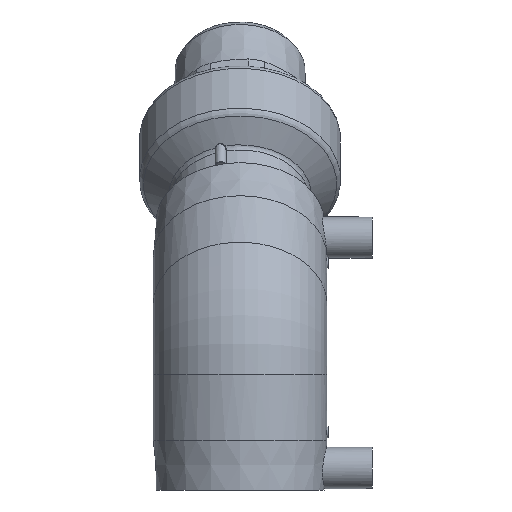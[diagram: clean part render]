
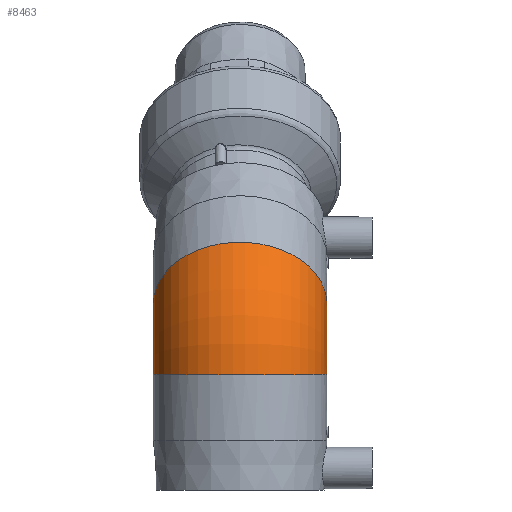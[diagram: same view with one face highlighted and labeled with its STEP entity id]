
A CAD part, left-side view. The second image highlights one B-rep face of the part: STEP entity #8463.
In plain terms, the highlighted toroidal (fillet/blend) face has major radius 35.5 mm and minor radius 31.5 mm.
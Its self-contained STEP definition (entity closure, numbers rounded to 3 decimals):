
#561=TOROIDAL_SURFACE('',#10811,35.5,31.5);
#895=B_SPLINE_CURVE_WITH_KNOTS('',3,(#14080,#14081,#14082,#14083,#14084,
#14085,#14086,#14087,#14088,#14089,#14090,#14091,#14092,#14093,#14094,#14095,
#14096,#14097,#14098,#14099,#14100,#14101,#14102,#14103,#14104,#14105,#14106),
 .UNSPECIFIED.,.F.,.F.,(4,1,1,1,1,1,1,1,1,1,1,1,1,1,1,1,1,1,1,1,1,1,1,1,
4),(0.,0.003,0.006,0.012,
0.018,0.021,0.024,0.027,
0.03,0.034,0.037,0.04,
0.043,0.049,0.055,0.061,
0.064,0.068,0.074,0.08,
0.086,0.089,0.092,0.095,
0.098),.UNSPECIFIED.);
#897=B_SPLINE_CURVE_WITH_KNOTS('',3,(#14129,#14130,#14131,#14132,#14133,
#14134,#14135,#14136,#14137,#14138,#14139,#14140,#14141,#14142,#14143,#14144,
#14145,#14146,#14147,#14148,#14149,#14150,#14151,#14152,#14153,#14154),
 .UNSPECIFIED.,.F.,.F.,(4,1,1,1,1,1,1,1,1,1,1,1,1,1,1,1,1,1,1,1,1,1,1,4),
(0.,0.003,0.006,0.012,
0.018,0.021,0.024,0.027,
0.03,0.034,0.037,0.04,
0.043,0.049,0.055,0.061,
0.064,0.068,0.071,0.074,
0.08,0.086,0.092,0.098),
 .UNSPECIFIED.);
#1766=ORIENTED_EDGE('',*,*,#4470,.F.);
#1767=ORIENTED_EDGE('',*,*,#4481,.F.);
#1768=ORIENTED_EDGE('',*,*,#4480,.F.);
#1769=ORIENTED_EDGE('',*,*,#4475,.T.);
#1770=ORIENTED_EDGE('',*,*,#4483,.T.);
#1771=ORIENTED_EDGE('',*,*,#4482,.T.);
#4470=EDGE_CURVE('',#5841,#5840,#895,.T.);
#4475=EDGE_CURVE('',#5846,#5845,#897,.T.);
#4480=EDGE_CURVE('',#5846,#5851,#6756,.T.);
#4481=EDGE_CURVE('',#5851,#5841,#6757,.T.);
#4482=EDGE_CURVE('',#5852,#5840,#6758,.T.);
#4483=EDGE_CURVE('',#5845,#5852,#6759,.T.);
#5840=VERTEX_POINT('',#14078);
#5841=VERTEX_POINT('',#14079);
#5845=VERTEX_POINT('',#14127);
#5846=VERTEX_POINT('',#14128);
#5851=VERTEX_POINT('',#14395);
#5852=VERTEX_POINT('',#14398);
#6756=CIRCLE('',#10804,35.5);
#6757=CIRCLE('',#10805,35.5);
#6758=CIRCLE('',#10806,35.5);
#6759=CIRCLE('',#10807,35.5);
#7111=EDGE_LOOP('',(#1766,#1767,#1768,#1769,#1770,#1771));
#7728=FACE_BOUND('',#7111,.T.);
#8463=ADVANCED_FACE('',(#7728),#561,.T.);
#10804=AXIS2_PLACEMENT_3D('',#14394,#11831,#11832);
#10805=AXIS2_PLACEMENT_3D('',#14396,#11833,#11834);
#10806=AXIS2_PLACEMENT_3D('',#14397,#11835,#11836);
#10807=AXIS2_PLACEMENT_3D('',#14399,#11837,#11838);
#10811=AXIS2_PLACEMENT_3D('',#14456,#11845,#11846);
#11831=DIRECTION('',(0.,1.,0.));
#11832=DIRECTION('',(-1.,0.,-0.008));
#11833=DIRECTION('',(0.,1.,0.));
#11834=DIRECTION('',(-1.,0.,-0.008));
#11835=DIRECTION('',(0.,1.,0.));
#11836=DIRECTION('',(-1.,0.,-0.008));
#11837=DIRECTION('',(0.,1.,0.));
#11838=DIRECTION('',(-1.,0.,-0.008));
#11845=DIRECTION('',(0.,1.,0.));
#11846=DIRECTION('',(0.,0.,1.));
#14078=CARTESIAN_POINT('',(10.607,-31.5,10.607));
#14079=CARTESIAN_POINT('',(10.607,31.5,10.607));
#14080=CARTESIAN_POINT('',(10.607,31.5,10.607));
#14081=CARTESIAN_POINT('',(9.882,31.5,11.337));
#14082=CARTESIAN_POINT('',(8.417,31.397,12.815));
#14083=CARTESIAN_POINT('',(5.555,30.794,15.699));
#14084=CARTESIAN_POINT('',(2.031,29.271,19.249));
#14085=CARTESIAN_POINT('',(-1.149,26.857,22.451));
#14086=CARTESIAN_POINT('',(-3.509,24.373,24.827));
#14087=CARTESIAN_POINT('',(-5.117,22.3,26.446));
#14088=CARTESIAN_POINT('',(-6.572,20.022,27.911));
#14089=CARTESIAN_POINT('',(-7.88,17.522,29.227));
#14090=CARTESIAN_POINT('',(-9.004,14.858,30.358));
#14091=CARTESIAN_POINT('',(-9.93,12.079,31.289));
#14092=CARTESIAN_POINT('',(-10.665,9.173,32.029));
#14093=CARTESIAN_POINT('',(-11.377,5.13,32.746));
#14094=CARTESIAN_POINT('',(-11.732,0.041,33.102));
#14095=CARTESIAN_POINT('',(-11.301,-6.219,32.669));
#14096=CARTESIAN_POINT('',(-10.235,-11.165,31.596));
#14097=CARTESIAN_POINT('',(-8.999,-14.874,30.352));
#14098=CARTESIAN_POINT('',(-7.485,-18.45,28.829));
#14099=CARTESIAN_POINT('',(-5.195,-22.406,26.524));
#14100=CARTESIAN_POINT('',(-1.778,-26.382,23.084));
#14101=CARTESIAN_POINT('',(1.404,-28.794,19.88));
#14102=CARTESIAN_POINT('',(4.17,-30.199,17.094));
#14103=CARTESIAN_POINT('',(6.277,-30.945,14.971));
#14104=CARTESIAN_POINT('',(8.418,-31.397,12.813));
#14105=CARTESIAN_POINT('',(9.882,-31.5,11.337));
#14106=CARTESIAN_POINT('',(10.607,-31.5,10.607));
#14127=CARTESIAN_POINT('',(0.,-31.5,-15.));
#14128=CARTESIAN_POINT('',(0.,31.5,-15.));
#14129=CARTESIAN_POINT('',(0.,31.5,-15.));
#14130=CARTESIAN_POINT('',(-1.029,31.5,-15.004));
#14131=CARTESIAN_POINT('',(-3.11,31.397,-15.013));
#14132=CARTESIAN_POINT('',(-7.173,30.794,-15.029));
#14133=CARTESIAN_POINT('',(-12.176,29.271,-15.047));
#14134=CARTESIAN_POINT('',(-16.688,26.856,-15.063));
#14135=CARTESIAN_POINT('',(-20.037,24.372,-15.074));
#14136=CARTESIAN_POINT('',(-22.319,22.299,-15.082));
#14137=CARTESIAN_POINT('',(-24.384,20.022,-15.088));
#14138=CARTESIAN_POINT('',(-26.239,17.522,-15.094));
#14139=CARTESIAN_POINT('',(-27.833,14.858,-15.099));
#14140=CARTESIAN_POINT('',(-29.146,12.078,-15.103));
#14141=CARTESIAN_POINT('',(-30.189,9.172,-15.107));
#14142=CARTESIAN_POINT('',(-31.2,5.129,-15.11));
#14143=CARTESIAN_POINT('',(-31.703,0.035,-15.111));
#14144=CARTESIAN_POINT('',(-31.09,-6.202,-15.109));
#14145=CARTESIAN_POINT('',(-29.603,-11.109,-15.105));
#14146=CARTESIAN_POINT('',(-27.824,-14.877,-15.099));
#14147=CARTESIAN_POINT('',(-26.241,-17.515,-15.094));
#14148=CARTESIAN_POINT('',(-24.412,-19.989,-15.089));
#14149=CARTESIAN_POINT('',(-21.614,-23.078,-15.079));
#14150=CARTESIAN_POINT('',(-17.655,-26.333,-15.066));
#14151=CARTESIAN_POINT('',(-12.128,-29.291,-15.047));
#14152=CARTESIAN_POINT('',(-6.252,-31.081,-15.025));
#14153=CARTESIAN_POINT('',(-2.059,-31.5,-15.009));
#14154=CARTESIAN_POINT('',(0.,-31.5,-15.));
#14394=CARTESIAN_POINT('',(35.499,31.5,-14.704));
#14395=CARTESIAN_POINT('',(-0.001,31.5,-14.512));
#14396=CARTESIAN_POINT('',(35.499,31.5,-14.704));
#14397=CARTESIAN_POINT('',(35.499,-31.5,-14.704));
#14398=CARTESIAN_POINT('',(-0.001,-31.5,-14.512));
#14399=CARTESIAN_POINT('',(35.499,-31.5,-14.704));
#14456=CARTESIAN_POINT('',(35.499,0.,-14.704));
